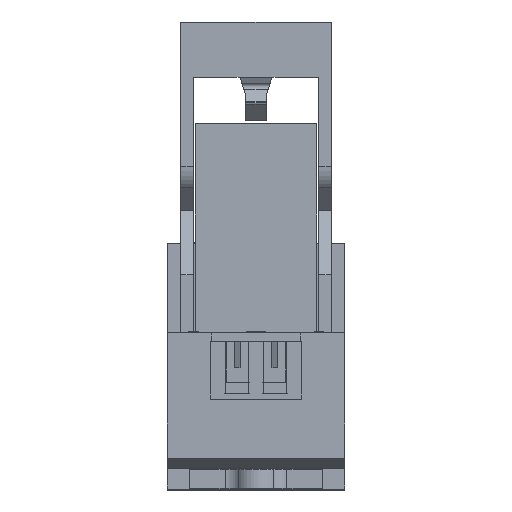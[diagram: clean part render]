
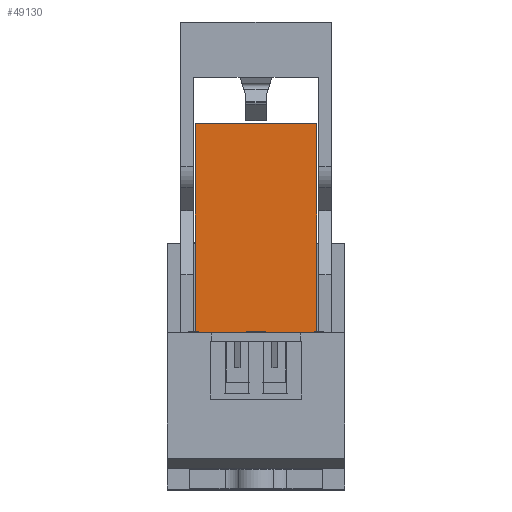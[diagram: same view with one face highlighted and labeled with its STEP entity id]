
A CAD part, top view. The second image highlights one B-rep face of the part: STEP entity #49130.
In plain terms, the highlighted planar face has unit normal (0, 0, 1).
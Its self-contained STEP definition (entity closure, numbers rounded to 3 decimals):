
#17324 = ORIENTED_EDGE ( 'NONE', *, *, #49246, .T. ) ;
#17325 = ORIENTED_EDGE ( 'NONE', *, *, #49245, .F. ) ;
#17326 = ORIENTED_EDGE ( 'NONE', *, *, #49502, .T. ) ;
#17327 = ORIENTED_EDGE ( 'NONE', *, *, #49244, .F. ) ;
#26608 = VERTEX_POINT ( 'NONE', #34623 ) ;
#26611 = VERTEX_POINT ( 'NONE', #34626 ) ;
#26905 = VERTEX_POINT ( 'NONE', #34920 ) ;
#26929 = VERTEX_POINT ( 'NONE', #34944 ) ;
#34623 = CARTESIAN_POINT ( 'NONE',  ( 10.5, 27., 20.85 ) ) ;
#34626 = CARTESIAN_POINT ( 'NONE',  ( -10.5, 27., 20.85 ) ) ;
#34920 = CARTESIAN_POINT ( 'NONE',  ( -10.5, 63., 20.85 ) ) ;
#34944 = CARTESIAN_POINT ( 'NONE',  ( 10.5, 63., 20.85 ) ) ;
#40797 = FACE_OUTER_BOUND ( 'NONE', #50386, .T. ) ;
#40800 = AXIS2_PLACEMENT_3D ( 'NONE', #43315, #43316, #43317 ) ;
#41022 = VECTOR ( 'NONE', #43723, 1000. ) ;
#41023 = VECTOR ( 'NONE', #43726, 1000. ) ;
#41024 = VECTOR ( 'NONE', #43729, 1000. ) ;
#43314 = PLANE ( 'NONE',  #40800 ) ;
#43315 = CARTESIAN_POINT ( 'NONE',  ( -10.5, 63., 20.85 ) ) ;
#43316 = DIRECTION ( 'NONE',  ( 0., 0., -1. ) ) ;
#43317 = DIRECTION ( 'NONE',  ( 0., 1., 0. ) ) ;
#43721 = LINE ( 'NONE', #43722, #41022 ) ;
#43722 = CARTESIAN_POINT ( 'NONE',  ( -10.5, 63., 20.85 ) ) ;
#43723 = DIRECTION ( 'NONE',  ( 1., 0., 0. ) ) ;
#43724 = LINE ( 'NONE', #43725, #41023 ) ;
#43725 = CARTESIAN_POINT ( 'NONE',  ( 10.5, 63., 20.85 ) ) ;
#43726 = DIRECTION ( 'NONE',  ( 0., -1., 0. ) ) ;
#43727 = LINE ( 'NONE', #43728, #41024 ) ;
#43728 = CARTESIAN_POINT ( 'NONE',  ( -10.5, 63., 20.85 ) ) ;
#43729 = DIRECTION ( 'NONE',  ( 0., -1., 0. ) ) ;
#45557 = LINE ( 'NONE', #45558, #45895 ) ;
#45558 = CARTESIAN_POINT ( 'NONE',  ( -10.5, 27., 20.85 ) ) ;
#45559 = DIRECTION ( 'NONE',  ( 1., 0., 0. ) ) ;
#45895 = VECTOR ( 'NONE', #45559, 1000. ) ;
#49130 = ADVANCED_FACE ( 'NONE', ( #40797 ), #43314, .F. ) ;
#49244 = EDGE_CURVE ( 'NONE', #26905, #26929, #43721, .T. ) ;
#49245 = EDGE_CURVE ( 'NONE', #26929, #26608, #43724, .T. ) ;
#49246 = EDGE_CURVE ( 'NONE', #26905, #26611, #43727, .T. ) ;
#49502 = EDGE_CURVE ( 'NONE', #26611, #26608, #45557, .T. ) ;
#50386 = EDGE_LOOP ( 'NONE', ( #17326, #17325, #17327, #17324 ) ) ;
